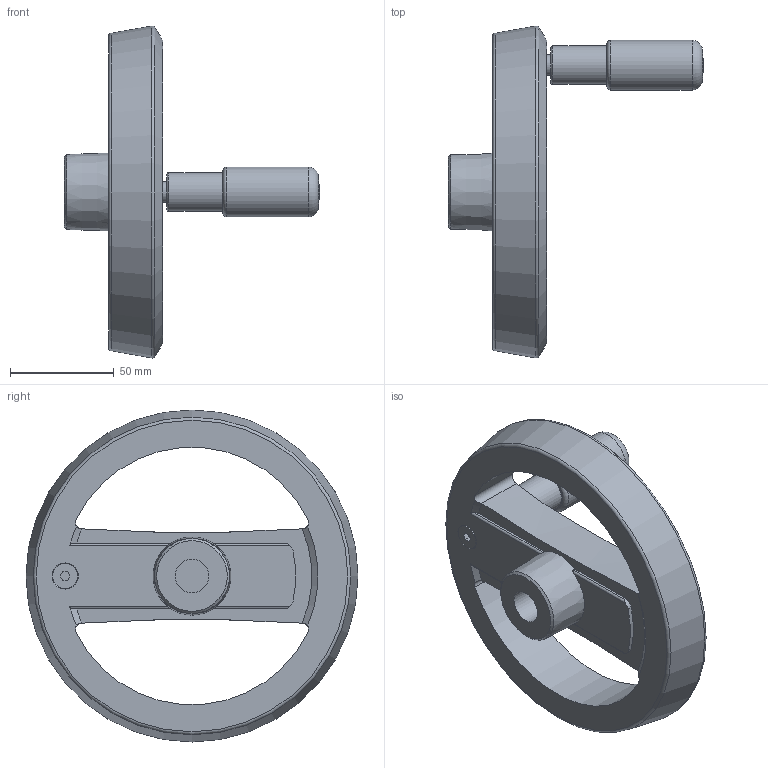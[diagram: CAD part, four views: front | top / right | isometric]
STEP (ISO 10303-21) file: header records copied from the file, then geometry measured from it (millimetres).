
FILE_DESCRIPTION( ( 'STEP AP203' ), '1' );
FILE_NAME( 'C:/Temp/Ganter_Step_05_03_2020/data/1_3/gn_924_3/gn_924_3_b/Handwheel with retractable handle GN 924.3-160-B16-R-SR (activated).stp', '2020-03-05T10:40:57', ( 'License CC BY-ND 4.0' ), ( 'CADENAS' ), ' ', 'PARTsolutions', ' ' );
FILE_SCHEMA( ( 'CONFIG_CONTROL_DESIGN' ) );
Length unit declared in the file: millimetre
Products named in the file (3): Handwheel with retractable handle GN 924.3-160-B16-R-SR (activated); _Umleggriff-Handrad GN 924.3-160-B16-R-SR-1; _Umleggriff-Handrad GN 924.3-160-B16-R-SR-2
Assembly tree (2 placements, depth 2):
  Handwheel with retractable handle GN 924.3-160-B16-R-SR (activated)
    _Umleggriff-Handrad GN 924.3-160-B16-R-SR-1
    _Umleggriff-Handrad GN 924.3-160-B16-R-SR-2
Bounding box: 122.7 x 159.68 x 159.68 mm (x, y, z)
Volume: 292637.3 mm3; surface area: 65497.1 mm2
Topology: 2 solids, 2 shells, 108 faces, 280 edges, 180 vertices
Faces by surface type: plane 46, cylinder 41, cone 12, torus 7, sphere 2
Full cylindrical faces by diameter (mm): 4 x4, 5 x1, 10 x1, 12 x1, 16 x1, 18.5 x1, 24 x1, 25 x1, 25.6 x1
Entity records: 3560 total; most frequent: CARTESIAN_POINT 951, DIRECTION 522, ORIENTED_EDGE 488, EDGE_CURVE 244, AXIS2_PLACEMENT_3D 212, VERTEX_POINT 175, EDGE_LOOP 148, FACE_OUTER_BOUND 127
